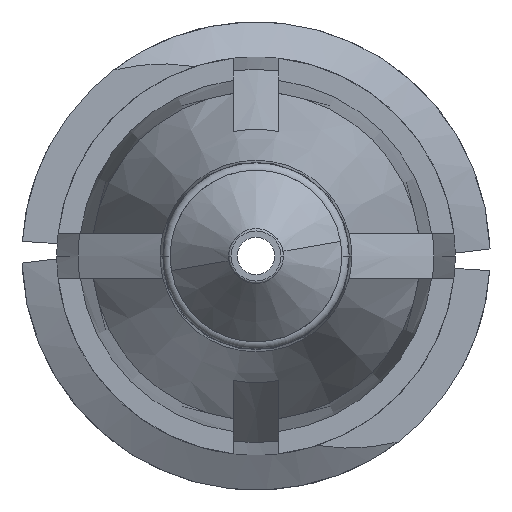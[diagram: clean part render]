
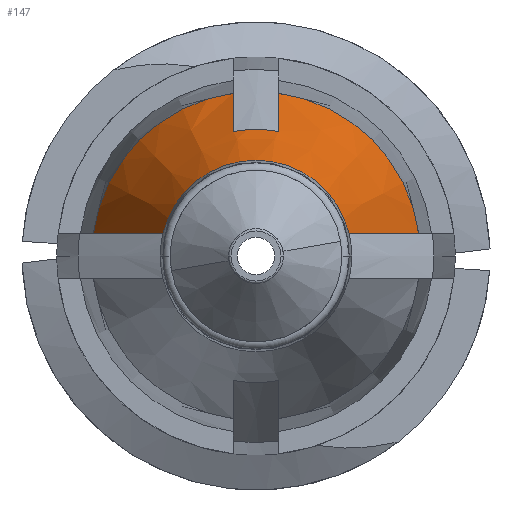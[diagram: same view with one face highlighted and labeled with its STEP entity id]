
A CAD part, front view. The second image highlights one B-rep face of the part: STEP entity #147.
In plain terms, the highlighted conical face has half-angle 20 degrees and reference radius 2.745 mm.
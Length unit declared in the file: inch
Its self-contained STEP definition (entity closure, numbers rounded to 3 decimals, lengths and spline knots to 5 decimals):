
#72 = CARTESIAN_POINT ( 'NONE',  ( -0.015, -0.47395, 0.08198 ) ) ;
#88 = EDGE_CURVE ( 'NONE', #2216, #2270, #210, .T. ) ;
#118 = CARTESIAN_POINT ( 'NONE',  ( 0.10703, -0.406, 0.015 ) ) ;
#144 = VERTEX_POINT ( 'NONE', #2838 ) ;
#147 = ADVANCED_FACE ( 'NONE', ( #2867 ), #2817, .T. ) ;
#193 = AXIS2_PLACEMENT_3D ( 'NONE', #1012, #999, #1272 ) ;
#210 = CIRCLE ( 'NONE', #660, 0.10808 ) ;
#317 = CARTESIAN_POINT ( 'NONE',  ( 0.09185, -0.44732, 0.015 ) ) ;
#343 = CARTESIAN_POINT ( 'NONE',  ( -0.09185, -0.44732, 0.015 ) ) ;
#360 = CARTESIAN_POINT ( 'NONE',  ( 0., -0.52985, 0. ) ) ;
#374 = CARTESIAN_POINT ( 'NONE',  ( -0.10703, -0.406, 0.015 ) ) ;
#380 = EDGE_CURVE ( 'NONE', #2998, #573, #2059, .T. ) ;
#387 = CARTESIAN_POINT ( 'NONE',  ( 0.015, -0.406, 0.10703 ) ) ;
#418 = DIRECTION ( 'NONE',  ( -1., 0., 0. ) ) ;
#443 = CARTESIAN_POINT ( 'NONE',  ( 0., -0.47395, 0. ) ) ;
#497 = CARTESIAN_POINT ( 'NONE',  ( -0.10703, -0.406, 0.015 ) ) ;
#573 = VERTEX_POINT ( 'NONE', #1503 ) ;
#608 = DIRECTION ( 'NONE',  ( 0., 1., 0. ) ) ;
#660 = AXIS2_PLACEMENT_3D ( 'NONE', #2021, #3090, #1194 ) ;
#788 = ORIENTED_EDGE ( 'NONE', *, *, #2738, .F. ) ;
#802 = CARTESIAN_POINT ( 'NONE',  ( 0.07664, -0.48863, 0.015 ) ) ;
#931 = EDGE_CURVE ( 'NONE', #3256, #2216, #1101, .T. ) ;
#999 = DIRECTION ( 'NONE',  ( 0., 1., 0. ) ) ;
#1012 = CARTESIAN_POINT ( 'NONE',  ( 0., -0.406, 0. ) ) ;
#1101 = B_SPLINE_CURVE_WITH_KNOTS ( 'NONE', 3,
 ( #1519, #2304, #2316, #2330 ),
 .UNSPECIFIED., .F., .F.,
 ( 4, 4 ),
 ( 0.00247, 0.00431 ),
 .UNSPECIFIED. ) ;
#1149 = CARTESIAN_POINT ( 'NONE',  ( -0.015, -0.406, 0.10703 ) ) ;
#1174 = ORIENTED_EDGE ( 'NONE', *, *, #2139, .F. ) ;
#1194 = DIRECTION ( 'NONE',  ( -1., 0., 0. ) ) ;
#1272 = DIRECTION ( 'NONE',  ( -1., 0., 0. ) ) ;
#1309 = CARTESIAN_POINT ( 'NONE',  ( 0.015, -0.47395, 0.08198 ) ) ;
#1344 = CIRCLE ( 'NONE', #1789, 0.063 ) ;
#1360 = AXIS2_PLACEMENT_3D ( 'NONE', #443, #1779, #3149 ) ;
#1366 = CARTESIAN_POINT ( 'NONE',  ( 0.06119, -0.52985, 0.015 ) ) ;
#1395 = ORIENTED_EDGE ( 'NONE', *, *, #3058, .T. ) ;
#1503 = CARTESIAN_POINT ( 'NONE',  ( -0.015, -0.47395, 0.08198 ) ) ;
#1512 = EDGE_LOOP ( 'NONE', ( #1174, #1395, #3168, #2273, #2496, #788, #1924, #2385 ) ) ;
#1519 = CARTESIAN_POINT ( 'NONE',  ( 0.015, -0.47395, 0.08198 ) ) ;
#1541 = B_SPLINE_CURVE_WITH_KNOTS ( 'NONE', 3,
 ( #2740, #1688, #343, #374 ),
 .UNSPECIFIED., .F., .F.,
 ( 4, 4 ),
 ( 0.00282, 0.00617 ),
 .UNSPECIFIED. ) ;
#1688 = CARTESIAN_POINT ( 'NONE',  ( -0.07664, -0.48863, 0.015 ) ) ;
#1779 = DIRECTION ( 'NONE',  ( 0., 1., 0. ) ) ;
#1789 = AXIS2_PLACEMENT_3D ( 'NONE', #360, #608, #2024 ) ;
#1923 = B_SPLINE_CURVE_WITH_KNOTS ( 'NONE', 3,
 ( #1366, #802, #317, #2695 ),
 .UNSPECIFIED., .F., .F.,
 ( 4, 4 ),
 ( 0.00282, 0.00617 ),
 .UNSPECIFIED. ) ;
#1924 = ORIENTED_EDGE ( 'NONE', *, *, #380, .F. ) ;
#1962 = EDGE_CURVE ( 'NONE', #144, #2270, #1923, .T. ) ;
#2021 = CARTESIAN_POINT ( 'NONE',  ( 0., -0.406, 0. ) ) ;
#2024 = DIRECTION ( 'NONE',  ( -1., 0., 0. ) ) ;
#2059 = B_SPLINE_CURVE_WITH_KNOTS ( 'NONE', 3,
 ( #2429, #3235, #2181, #72 ),
 .UNSPECIFIED., .F., .F.,
 ( 4, 4 ),
 ( 0.00343, 0.00527 ),
 .UNSPECIFIED. ) ;
#2139 = EDGE_CURVE ( 'NONE', #2952, #3213, #1541, .T. ) ;
#2181 = CARTESIAN_POINT ( 'NONE',  ( -0.015, -0.45131, 0.09036 ) ) ;
#2216 = VERTEX_POINT ( 'NONE', #387 ) ;
#2270 = VERTEX_POINT ( 'NONE', #118 ) ;
#2273 = ORIENTED_EDGE ( 'NONE', *, *, #88, .F. ) ;
#2304 = CARTESIAN_POINT ( 'NONE',  ( 0.015, -0.45131, 0.09036 ) ) ;
#2316 = CARTESIAN_POINT ( 'NONE',  ( 0.015, -0.42866, 0.0987 ) ) ;
#2330 = CARTESIAN_POINT ( 'NONE',  ( 0.015, -0.406, 0.10703 ) ) ;
#2385 = ORIENTED_EDGE ( 'NONE', *, *, #3290, .F. ) ;
#2429 = CARTESIAN_POINT ( 'NONE',  ( -0.015, -0.406, 0.10703 ) ) ;
#2465 = CARTESIAN_POINT ( 'NONE',  ( -0.06119, -0.52985, 0.015 ) ) ;
#2496 = ORIENTED_EDGE ( 'NONE', *, *, #931, .F. ) ;
#2515 = CIRCLE ( 'NONE', #1360, 0.08335 ) ;
#2538 = CARTESIAN_POINT ( 'NONE',  ( 0., -0.406, 0. ) ) ;
#2695 = CARTESIAN_POINT ( 'NONE',  ( 0.10703, -0.406, 0.015 ) ) ;
#2738 = EDGE_CURVE ( 'NONE', #573, #3256, #2515, .T. ) ;
#2740 = CARTESIAN_POINT ( 'NONE',  ( -0.06119, -0.52985, 0.015 ) ) ;
#2817 = CONICAL_SURFACE ( 'NONE', #2881, 0.10808, 0.349 ) ;
#2838 = CARTESIAN_POINT ( 'NONE',  ( 0.06119, -0.52985, 0.015 ) ) ;
#2867 = FACE_OUTER_BOUND ( 'NONE', #1512, .T. ) ;
#2881 = AXIS2_PLACEMENT_3D ( 'NONE', #2538, #3074, #418 ) ;
#2952 = VERTEX_POINT ( 'NONE', #2465 ) ;
#2998 = VERTEX_POINT ( 'NONE', #1149 ) ;
#3058 = EDGE_CURVE ( 'NONE', #2952, #144, #1344, .T. ) ;
#3074 = DIRECTION ( 'NONE',  ( 0., 1., 0. ) ) ;
#3090 = DIRECTION ( 'NONE',  ( 0., 1., 0. ) ) ;
#3149 = DIRECTION ( 'NONE',  ( 1., 0., 0. ) ) ;
#3168 = ORIENTED_EDGE ( 'NONE', *, *, #1962, .T. ) ;
#3213 = VERTEX_POINT ( 'NONE', #497 ) ;
#3235 = CARTESIAN_POINT ( 'NONE',  ( -0.015, -0.42866, 0.0987 ) ) ;
#3256 = VERTEX_POINT ( 'NONE', #1309 ) ;
#3268 = CIRCLE ( 'NONE', #193, 0.10808 ) ;
#3290 = EDGE_CURVE ( 'NONE', #3213, #2998, #3268, .T. ) ;
